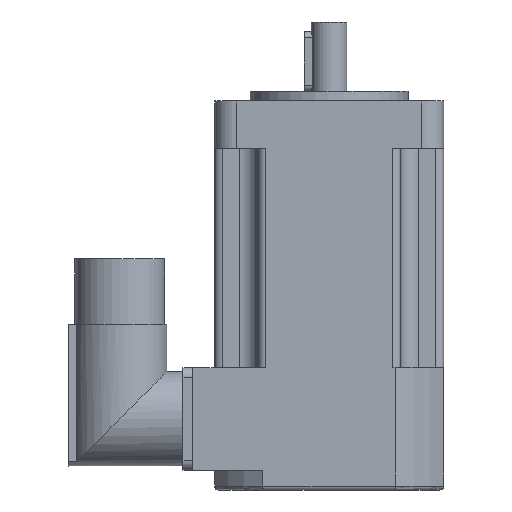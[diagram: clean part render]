
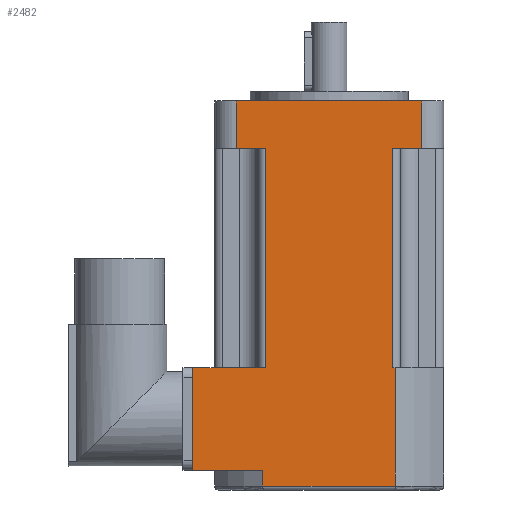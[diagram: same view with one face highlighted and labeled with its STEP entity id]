
A CAD part, left-side view. The second image highlights one B-rep face of the part: STEP entity #2482.
In plain terms, the highlighted planar face has unit normal (-1, 0, 0).
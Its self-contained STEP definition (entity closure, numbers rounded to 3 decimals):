
#99=LINE('',#3835,#320);
#122=LINE('',#3903,#343);
#138=LINE('',#3952,#359);
#139=LINE('',#3955,#360);
#142=LINE('',#3961,#363);
#165=LINE('',#4021,#386);
#166=LINE('',#4026,#387);
#188=LINE('',#4075,#409);
#191=LINE('',#4084,#412);
#199=LINE('',#4220,#420);
#201=LINE('',#4242,#422);
#203=LINE('',#4247,#424);
#204=LINE('',#4249,#425);
#205=LINE('',#4250,#426);
#320=VECTOR('',#3044,7.425);
#343=VECTOR('',#3107,7.425);
#359=VECTOR('',#3163,12.);
#360=VECTOR('',#3166,12.);
#363=VECTOR('',#3173,47.);
#386=VECTOR('',#3238,55.5);
#387=VECTOR('',#3243,55.5);
#409=VECTOR('',#3287,18.425);
#412=VECTOR('',#3296,0.696);
#420=VECTOR('',#3332,33.541);
#422=VECTOR('',#3342,4.);
#424=VECTOR('',#3348,30.);
#425=VECTOR('',#3349,26.);
#426=VECTOR('',#3350,17.729);
#525=PLANE('',#2718);
#733=FACE_OUTER_BOUND('',#889,.T.);
#889=EDGE_LOOP('',(#2153,#2154,#2155,#2156,#2157,#2158,#2159,#2160,#2161,
#2162,#2163,#2164,#2165,#2166));
#1149=VERTEX_POINT('',#3832);
#1150=VERTEX_POINT('',#3834);
#1174=VERTEX_POINT('',#3900);
#1175=VERTEX_POINT('',#3902);
#1188=VERTEX_POINT('',#3950);
#1189=VERTEX_POINT('',#3954);
#1206=VERTEX_POINT('',#4019);
#1207=VERTEX_POINT('',#4023);
#1224=VERTEX_POINT('',#4073);
#1227=VERTEX_POINT('',#4083);
#1241=VERTEX_POINT('',#4200);
#1243=VERTEX_POINT('',#4219);
#1245=VERTEX_POINT('',#4241);
#1247=VERTEX_POINT('',#4248);
#1418=EDGE_CURVE('',#1150,#1149,#99,.T.);
#1452=EDGE_CURVE('',#1175,#1174,#122,.T.);
#1477=EDGE_CURVE('',#1149,#1188,#138,.T.);
#1478=EDGE_CURVE('',#1175,#1189,#139,.T.);
#1482=EDGE_CURVE('',#1189,#1188,#142,.T.);
#1513=EDGE_CURVE('',#1206,#1150,#165,.T.);
#1515=EDGE_CURVE('',#1207,#1174,#166,.T.);
#1540=EDGE_CURVE('',#1224,#1207,#188,.T.);
#1544=EDGE_CURVE('',#1206,#1227,#191,.T.);
#1566=EDGE_CURVE('',#1243,#1241,#199,.T.);
#1571=EDGE_CURVE('',#1245,#1241,#201,.T.);
#1574=EDGE_CURVE('',#1243,#1227,#203,.T.);
#1575=EDGE_CURVE('',#1224,#1247,#204,.T.);
#1576=EDGE_CURVE('',#1245,#1247,#205,.T.);
#2153=ORIENTED_EDGE('',*,*,#1566,.F.);
#2154=ORIENTED_EDGE('',*,*,#1574,.T.);
#2155=ORIENTED_EDGE('',*,*,#1544,.F.);
#2156=ORIENTED_EDGE('',*,*,#1513,.T.);
#2157=ORIENTED_EDGE('',*,*,#1418,.T.);
#2158=ORIENTED_EDGE('',*,*,#1477,.T.);
#2159=ORIENTED_EDGE('',*,*,#1482,.F.);
#2160=ORIENTED_EDGE('',*,*,#1478,.F.);
#2161=ORIENTED_EDGE('',*,*,#1452,.T.);
#2162=ORIENTED_EDGE('',*,*,#1515,.F.);
#2163=ORIENTED_EDGE('',*,*,#1540,.F.);
#2164=ORIENTED_EDGE('',*,*,#1575,.T.);
#2165=ORIENTED_EDGE('',*,*,#1576,.F.);
#2166=ORIENTED_EDGE('',*,*,#1571,.T.);
#2482=ADVANCED_FACE('',(#733),#525,.T.);
#2718=AXIS2_PLACEMENT_3D('',#4246,#3346,#3347);
#3044=DIRECTION('',(0.,-1.,0.));
#3107=DIRECTION('',(0.,-1.,0.));
#3163=DIRECTION('',(0.,0.,1.));
#3166=DIRECTION('',(0.,0.,1.));
#3173=DIRECTION('',(0.,-1.,0.));
#3238=DIRECTION('',(0.,0.,1.));
#3243=DIRECTION('',(0.,0.,1.));
#3287=DIRECTION('',(0.,-1.,0.));
#3296=DIRECTION('',(0.,-1.,0.));
#3332=DIRECTION('',(0.,1.,0.));
#3342=DIRECTION('',(0.,0.,-1.));
#3346=DIRECTION('center_axis',(-1.,0.,0.));
#3347=DIRECTION('ref_axis',(0.,-1.,0.));
#3348=DIRECTION('',(0.,0.,1.));
#3349=DIRECTION('',(0.,0.,-1.));
#3350=DIRECTION('',(0.,1.,0.));
#3832=CARTESIAN_POINT('',(-29.,-23.5,68.5));
#3834=CARTESIAN_POINT('',(-29.,-16.075,68.5));
#3835=CARTESIAN_POINT('',(-29.,23.5,68.5));
#3900=CARTESIAN_POINT('',(-29.,16.075,68.5));
#3902=CARTESIAN_POINT('',(-29.,23.5,68.5));
#3903=CARTESIAN_POINT('',(-29.,23.5,68.5));
#3950=CARTESIAN_POINT('',(-29.,-23.5,80.5));
#3952=CARTESIAN_POINT('',(-29.,-23.5,68.5));
#3954=CARTESIAN_POINT('',(-29.,23.5,80.5));
#3955=CARTESIAN_POINT('',(-29.,23.5,68.5));
#3961=CARTESIAN_POINT('',(-29.,23.5,80.5));
#4019=CARTESIAN_POINT('',(-29.,-16.075,13.));
#4021=CARTESIAN_POINT('',(-29.,-16.075,13.));
#4023=CARTESIAN_POINT('',(-29.,16.075,13.));
#4026=CARTESIAN_POINT('',(-29.,16.075,13.));
#4073=CARTESIAN_POINT('',(-29.,34.5,13.));
#4075=CARTESIAN_POINT('',(-29.,34.5,13.));
#4083=CARTESIAN_POINT('',(-29.,-16.771,13.));
#4084=CARTESIAN_POINT('',(-29.,34.5,13.));
#4200=CARTESIAN_POINT('',(-29.,16.771,-17.));
#4219=CARTESIAN_POINT('',(-29.,-16.771,-17.));
#4220=CARTESIAN_POINT('',(-29.,17.25,-17.));
#4241=CARTESIAN_POINT('',(-29.,16.771,-13.));
#4242=CARTESIAN_POINT('',(-29.,16.771,-13.));
#4246=CARTESIAN_POINT('Origin',(-29.,34.5,0.));
#4247=CARTESIAN_POINT('',(-29.,-16.771,0.));
#4248=CARTESIAN_POINT('',(-29.,34.5,-13.));
#4249=CARTESIAN_POINT('',(-29.,34.5,0.));
#4250=CARTESIAN_POINT('',(-29.,34.5,-13.));
